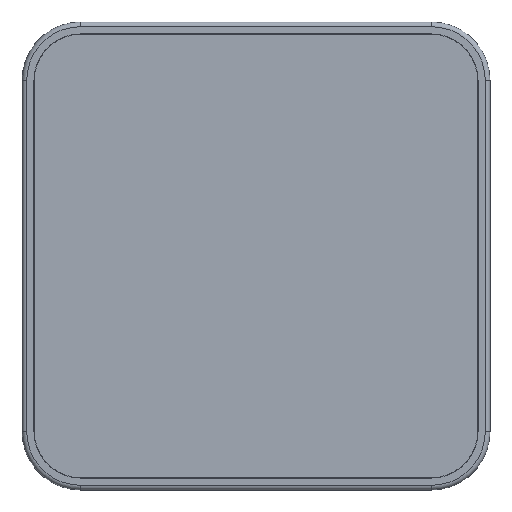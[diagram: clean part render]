
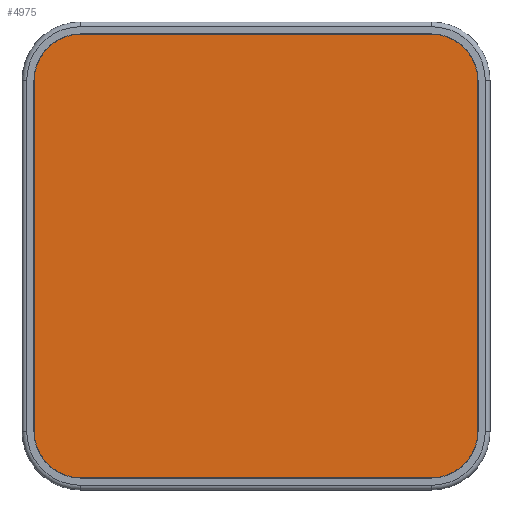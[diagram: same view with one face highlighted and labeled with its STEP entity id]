
A CAD part, front view. The second image highlights one B-rep face of the part: STEP entity #4975.
In plain terms, the highlighted planar face has unit normal (0, -1, 0) as drawn and (0, 0, 1) by its records, which use the part's own axes.
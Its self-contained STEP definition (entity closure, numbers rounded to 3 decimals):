
#4744=CARTESIAN_POINT('',(-150.,-150.,0.));
#4745=DIRECTION('',(0.,0.,1.));
#4746=DIRECTION('',(-1.,0.,0.));
#4747=AXIS2_PLACEMENT_3D('',#4744,#4745,#4746);
#4752=DIRECTION('',(0.,-1.,0.));
#4753=VECTOR('',#4752,300.);
#4754=CARTESIAN_POINT('',(-194.5,150.,0.));
#4755=LINE('',#4754,#4753);
#4759=CARTESIAN_POINT('',(-150.,150.,0.));
#4760=DIRECTION('',(0.,0.,1.));
#4761=DIRECTION('',(0.,1.,0.));
#4762=AXIS2_PLACEMENT_3D('',#4759,#4760,#4761);
#4767=DIRECTION('',(-1.,0.,0.));
#4768=VECTOR('',#4767,300.);
#4769=CARTESIAN_POINT('',(150.,194.5,0.));
#4770=LINE('',#4769,#4768);
#4774=CARTESIAN_POINT('',(150.,150.,0.));
#4775=DIRECTION('',(0.,0.,1.));
#4776=DIRECTION('',(1.,0.,0.));
#4777=AXIS2_PLACEMENT_3D('',#4774,#4775,#4776);
#4782=DIRECTION('',(0.,1.,0.));
#4783=VECTOR('',#4782,300.);
#4784=CARTESIAN_POINT('',(194.5,-150.,0.));
#4785=LINE('',#4784,#4783);
#4789=CARTESIAN_POINT('',(150.,-150.,0.));
#4790=DIRECTION('',(0.,0.,1.));
#4791=DIRECTION('',(0.,-1.,0.));
#4792=AXIS2_PLACEMENT_3D('',#4789,#4790,#4791);
#4797=DIRECTION('',(1.,0.,0.));
#4798=VECTOR('',#4797,300.);
#4799=CARTESIAN_POINT('',(-150.,-194.5,0.));
#4800=LINE('',#4799,#4798);
#4920=CARTESIAN_POINT('',(-194.5,-150.,0.));
#4921=CARTESIAN_POINT('',(-150.,-194.5,0.));
#4922=VERTEX_POINT('',#4920);
#4923=VERTEX_POINT('',#4921);
#4924=CARTESIAN_POINT('',(150.,-194.5,0.));
#4925=VERTEX_POINT('',#4924);
#4926=CARTESIAN_POINT('',(194.5,-150.,0.));
#4927=VERTEX_POINT('',#4926);
#4928=CARTESIAN_POINT('',(194.5,150.,0.));
#4929=VERTEX_POINT('',#4928);
#4930=CARTESIAN_POINT('',(150.,194.5,0.));
#4931=VERTEX_POINT('',#4930);
#4932=CARTESIAN_POINT('',(-150.,194.5,0.));
#4933=VERTEX_POINT('',#4932);
#4934=CARTESIAN_POINT('',(-194.5,150.,0.));
#4935=VERTEX_POINT('',#4934);
#4952=CARTESIAN_POINT('',(0.,0.,0.));
#4953=DIRECTION('',(0.,0.,1.));
#4954=DIRECTION('',(0.,1.,0.));
#4955=AXIS2_PLACEMENT_3D('',#4952,#4953,#4954);
#4956=PLANE('',#4955);
#4958=ORIENTED_EDGE('',*,*,#4957,.F.);
#4960=ORIENTED_EDGE('',*,*,#4959,.F.);
#4962=ORIENTED_EDGE('',*,*,#4961,.F.);
#4964=ORIENTED_EDGE('',*,*,#4963,.F.);
#4966=ORIENTED_EDGE('',*,*,#4965,.F.);
#4968=ORIENTED_EDGE('',*,*,#4967,.F.);
#4970=ORIENTED_EDGE('',*,*,#4969,.F.);
#4972=ORIENTED_EDGE('',*,*,#4971,.F.);
#4973=EDGE_LOOP('',(#4958,#4960,#4962,#4964,#4966,#4968,#4970,#4972));
#4974=FACE_OUTER_BOUND('',#4973,.F.);
#4975=ADVANCED_FACE('',(#4974),#4956,.T.);
#4748=CIRCLE('',#4747,44.5);
#4763=CIRCLE('',#4762,44.5);
#4778=CIRCLE('',#4777,44.5);
#4793=CIRCLE('',#4792,44.5);
#4957=EDGE_CURVE('',#4922,#4923,#4748,.T.);
#4959=EDGE_CURVE('',#4935,#4922,#4755,.T.);
#4961=EDGE_CURVE('',#4933,#4935,#4763,.T.);
#4963=EDGE_CURVE('',#4931,#4933,#4770,.T.);
#4965=EDGE_CURVE('',#4929,#4931,#4778,.T.);
#4967=EDGE_CURVE('',#4927,#4929,#4785,.T.);
#4969=EDGE_CURVE('',#4925,#4927,#4793,.T.);
#4971=EDGE_CURVE('',#4923,#4925,#4800,.T.);
